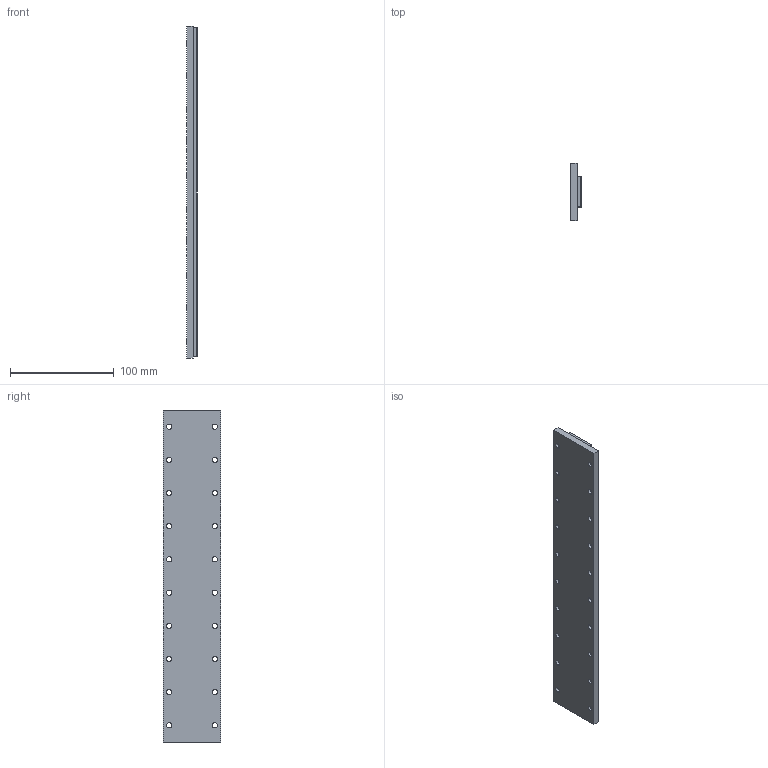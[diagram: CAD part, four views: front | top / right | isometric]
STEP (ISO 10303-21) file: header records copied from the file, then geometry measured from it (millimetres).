
FILE_DESCRIPTION (( 'STEP AP214' ), '1' );
FILE_NAME ('PIXM030-TL320-NC.STEP', '2020-07-30T01:53:05', ( '' ), ( '' ), 'SwSTEP 2.0', 'SolidWorks 2016', '' );
FILE_SCHEMA (( 'AUTOMOTIVE_DESIGN' ));
Length unit declared in the file: inch
Products named in the file (3): PIXM030-TL320-NC; 001SM030LXXX01_TL320; 001SM030000001-CUSTOMER_TL320
Assembly tree (2 placements, depth 2):
  PIXM030-TL320-NC
    001SM030LXXX01_TL320
    001SM030000001-CUSTOMER_TL320
Bounding box: 10 x 55 x 320 mm (x, y, z)
Volume: 139041.3 mm3; surface area: 62991.4 mm2
Topology: 2 solids, 2 shells, 143 faces, 338 edges, 212 vertices
Faces by surface type: cylinder 92, plane 43, bspline 8
Entity records: 6267 total; most frequent: CARTESIAN_POINT 810, DIRECTION 794, ORIENTED_EDGE 660, EDGE_CURVE 330, AXIS2_PLACEMENT_3D 324, VERTEX_POINT 212, EDGE_LOOP 204, CIRCLE 184
